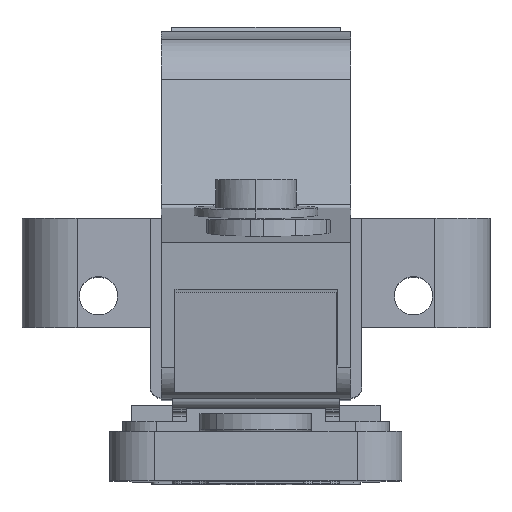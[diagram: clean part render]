
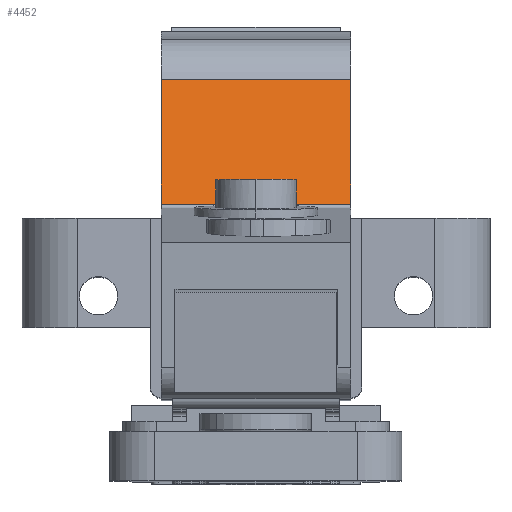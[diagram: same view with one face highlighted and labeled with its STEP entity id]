
A CAD part, top view. The second image highlights one B-rep face of the part: STEP entity #4452.
In plain terms, the highlighted planar face has unit normal (0, 0.282, 0.96).
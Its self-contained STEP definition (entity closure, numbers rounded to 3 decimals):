
#63 = ORIENTED_EDGE ( 'NONE', *, *, #2204, .T. ) ;
#194 = CARTESIAN_POINT ( 'NONE',  ( -92.033, 22.928, 26.557 ) ) ;
#267 = VERTEX_POINT ( 'NONE', #3872 ) ;
#385 = DIRECTION ( 'NONE',  ( 1., 0., 0. ) ) ;
#714 = VERTEX_POINT ( 'NONE', #5507 ) ;
#1141 = EDGE_CURVE ( 'NONE', #267, #3615, #5943, .T. ) ;
#1154 = ORIENTED_EDGE ( 'NONE', *, *, #6642, .F. ) ;
#1266 = ORIENTED_EDGE ( 'NONE', *, *, #2410, .T. ) ;
#1282 = LINE ( 'NONE', #2885, #1581 ) ;
#1335 = DIRECTION ( 'NONE',  ( 0., -0.96, 0.282 ) ) ;
#1462 = CARTESIAN_POINT ( 'NONE',  ( -8.4, 33.982, 23.312 ) ) ;
#1581 = VECTOR ( 'NONE', #6314, 1000. ) ;
#2121 = AXIS2_PLACEMENT_3D ( 'NONE', #6355, #6323, #6337 ) ;
#2204 = EDGE_CURVE ( 'NONE', #3615, #714, #4896, .T. ) ;
#2224 = FACE_OUTER_BOUND ( 'NONE', #4716, .T. ) ;
#2410 = EDGE_CURVE ( 'NONE', #714, #2976, #4712, .T. ) ;
#2448 = DIRECTION ( 'NONE',  ( -1., 0., 0. ) ) ;
#2501 = CARTESIAN_POINT ( 'NONE',  ( -92.033, 33.982, 23.312 ) ) ;
#2803 = ORIENTED_EDGE ( 'NONE', *, *, #1141, .T. ) ;
#2885 = CARTESIAN_POINT ( 'NONE',  ( 8.4, 33.982, 23.312 ) ) ;
#2976 = VERTEX_POINT ( 'NONE', #4859 ) ;
#3615 = VERTEX_POINT ( 'NONE', #4972 ) ;
#3872 = CARTESIAN_POINT ( 'NONE',  ( 8.4, 33.982, 23.312 ) ) ;
#4452 = ADVANCED_FACE ( 'NONE', ( #2224 ), #6372, .T. ) ;
#4696 = VECTOR ( 'NONE', #385, 1000. ) ;
#4712 = LINE ( 'NONE', #194, #4696 ) ;
#4716 = EDGE_LOOP ( 'NONE', ( #2803, #63, #1266, #1154 ) ) ;
#4859 = CARTESIAN_POINT ( 'NONE',  ( 8.4, 22.928, 26.557 ) ) ;
#4893 = VECTOR ( 'NONE', #1335, 1000. ) ;
#4896 = LINE ( 'NONE', #1462, #4893 ) ;
#4972 = CARTESIAN_POINT ( 'NONE',  ( -8.4, 33.982, 23.312 ) ) ;
#5507 = CARTESIAN_POINT ( 'NONE',  ( -8.4, 22.928, 26.557 ) ) ;
#5939 = VECTOR ( 'NONE', #2448, 1000. ) ;
#5943 = LINE ( 'NONE', #2501, #5939 ) ;
#6314 = DIRECTION ( 'NONE',  ( 0., -0.96, 0.282 ) ) ;
#6323 = DIRECTION ( 'NONE',  ( 0., 0.282, 0.96 ) ) ;
#6337 = DIRECTION ( 'NONE',  ( 1., 0., 0. ) ) ;
#6355 = CARTESIAN_POINT ( 'NONE',  ( -92.033, 33.982, 23.312 ) ) ;
#6372 = PLANE ( 'NONE',  #2121 ) ;
#6642 = EDGE_CURVE ( 'NONE', #267, #2976, #1282, .T. ) ;
